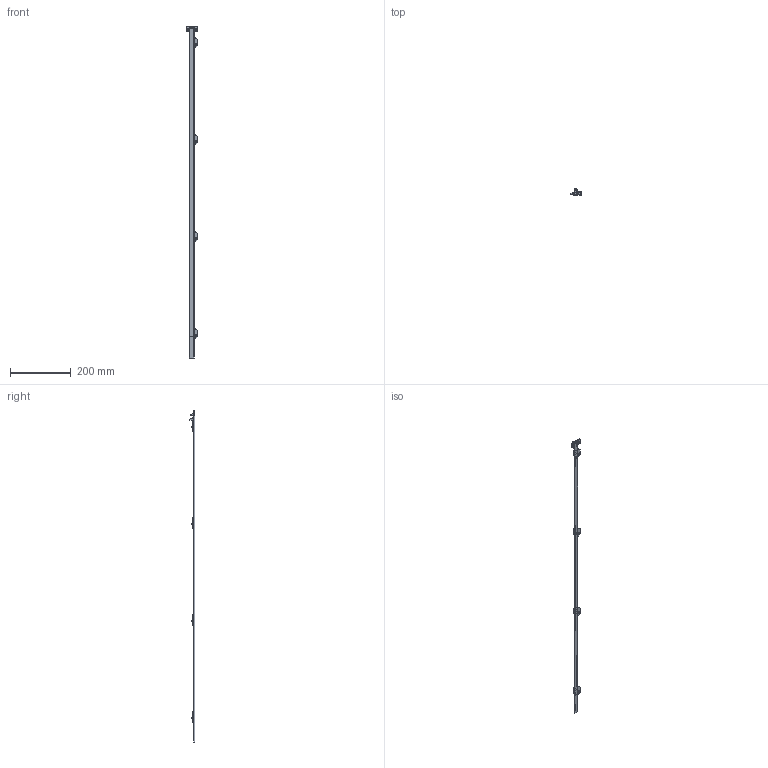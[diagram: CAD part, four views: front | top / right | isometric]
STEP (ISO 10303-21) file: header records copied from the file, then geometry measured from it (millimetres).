
FILE_DESCRIPTION(/* description */ (''),/* implementation_level */ '2;1');
FILE_NAME(/* name */ 'S:\EW-Aufträge\EW-Aufträge 2021\KON\21-2026_DEMOS_3D Daten für Online Katalog, lt Excel Liste\02_Bearbeitung\Step_SWI\265125402.stp',/* time_stamp */ '2021-02-22T08:13:01+01:00',/* author */ ('Bessel'),/* organization */ (''),/* preprocessor_version */ 'ST-DEVELOPER v18.1',/* originating_system */ 'Autodesk Inventor 2020',/* authorisation */ '');
FILE_SCHEMA (('AUTOMOTIVE_DESIGN { 1 0 10303 214 3 1 1 }'));
Products named in the file (1): Bauteil4
Bounding box: 39.5 x 18.81 x 1095.5 mm (x, y, z)
Volume: 60884.1 mm3; surface area: 54023.7 mm2
Topology: 1 solids, 2 shells, 1389 faces, 3764 edges, 2355 vertices
Faces by surface type: plane 594, bspline 385, cylinder 292, cone 61, torus 41, sphere 16
Full cylindrical faces by diameter (mm): 3.2 x2, 8.6 x4, 8.7 x8
Entity records: 58069 total; most frequent: CARTESIAN_POINT 23706, ORIENTED_EDGE 7456, DIRECTION 5988, EDGE_CURVE 3728, VERTEX_POINT 2355, AXIS2_PLACEMENT_3D 2053, LINE 1882, VECTOR 1882
